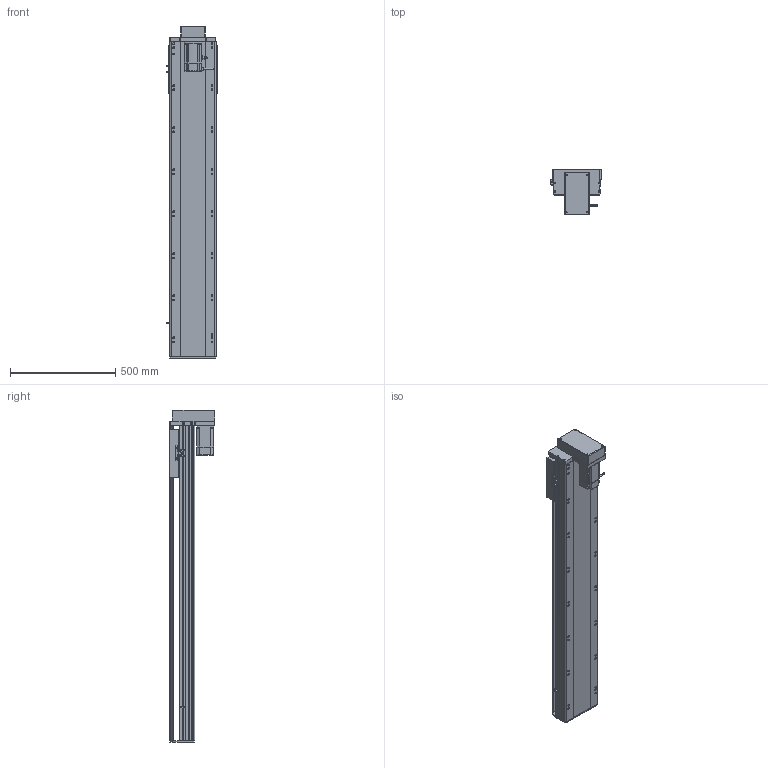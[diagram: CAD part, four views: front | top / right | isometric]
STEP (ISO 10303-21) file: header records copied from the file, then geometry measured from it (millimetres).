
FILE_DESCRIPTION (( 'STEP AP214' ), '1' );
FILE_NAME ('RTH22-XX-1200-M-M75-C4.STEP', '2025-10-24T11:13:43', ( 'Microsoft' ), ( 'Microsoft' ), 'SwSTEP 2.0', 'SolidWorks 2018', '' );
FILE_SCHEMA (( 'AUTOMOTIVE_DESIGN' ));
Length unit declared in the file: millimetre
Products named in the file (10): N_RTH22-GY-001耜裔^RTH22-XX-XX-M-M75-C4; N_RTH22-M-018裔赽^RTH22-XX-XX-M-M75-C4; N_RTH22-M-008-P75萇儂啣^RTH22-XX-XX-M-M75-C4; N_RTH22-L-011菁釱^RTH22-XX-XX-M-M75-C4; N_750W萇儂^RTH22-XX-XX-M-M75-C4; N_RTH22-M-007奻裔^RTH22-XX-XX-M-M75-C4; N_OMRON EE-SX672 传感器^RTH22-XX-XX-M-M75-C4; N_RTH22-GY-013外置感应片^RTH22-XX-XX-M-M75-C4; RTH22-XX-1200-M-M75-C4; N_RTH22-L-004-SFS25賑釱^RTH22-XX-XX-M-M75-C4
Assembly tree (11 placements, depth 2):
  RTH22-XX-1200-M-M75-C4
    N_RTH22-L-011菁釱^RTH22-XX-XX-M-M75-C4
    N_RTH22-GY-001耜裔^RTH22-XX-XX-M-M75-C4
    N_750W萇儂^RTH22-XX-XX-M-M75-C4
    N_RTH22-M-008-P75萇儂啣^RTH22-XX-XX-M-M75-C4
    N_RTH22-M-007奻裔^RTH22-XX-XX-M-M75-C4
    N_RTH22-M-018裔赽^RTH22-XX-XX-M-M75-C4
    N_OMRON EE-SX672 传感器^RTH22-XX-XX-M-M75-C4  x3
    N_RTH22-GY-013外置感应片^RTH22-XX-XX-M-M75-C4
    N_RTH22-L-004-SFS25賑釱^RTH22-XX-XX-M-M75-C4
Bounding box: 238.5 x 218.5 x 1579.7 mm (x, y, z)
Volume: 21176742.6 mm3; surface area: 2296505.5 mm2
Topology: 11 solids, 11 shells, 1641 faces, 4480 edges, 2885 vertices
Faces by surface type: plane 809, cylinder 487, bspline 279, cone 66
Entity records: 41657 total; most frequent: CARTESIAN_POINT 12512, ORIENTED_EDGE 5920, DIRECTION 5614, EDGE_CURVE 2960, VERTEX_POINT 1921, AXIS2_PLACEMENT_3D 1895, VECTOR 1824, LINE 1824
